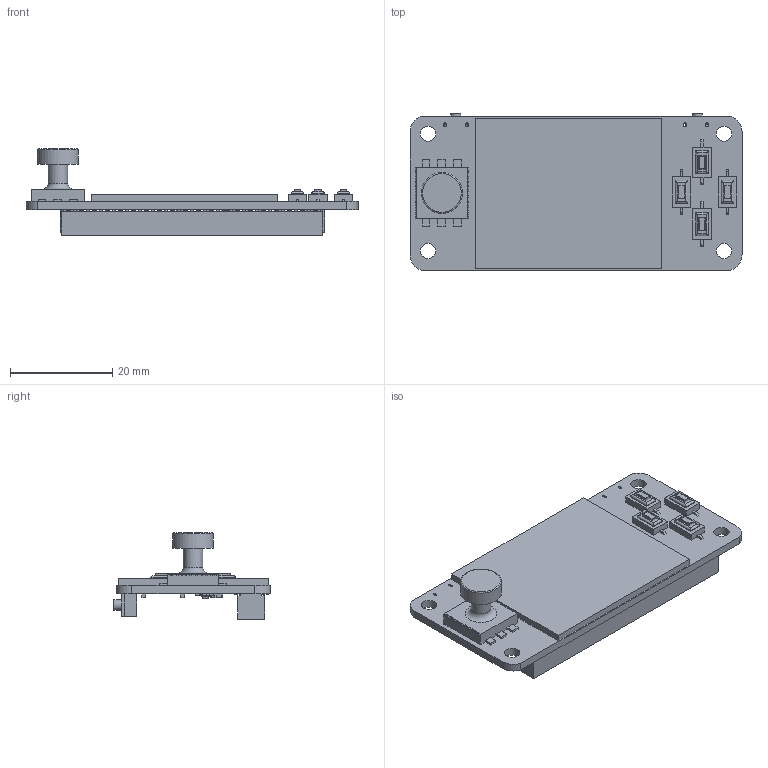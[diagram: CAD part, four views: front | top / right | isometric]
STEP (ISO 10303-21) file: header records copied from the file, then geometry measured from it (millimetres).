
FILE_DESCRIPTION(/* description */ (''),/* implementation_level */ '2;1');
FILE_NAME(/* name */ '1.44inch LCD Display-V1.3.stp',/* time_stamp */ '2025-08-19T09:02:24+08:00',/* author */ (''),/* organization */ (''),/* preprocessor_version */ 'ST-DEVELOPER v16.7',/* originating_system */ 'SIEMENS PLM Software NX 12.0',/* authorisation */ '');
FILE_SCHEMA (('AUTOMOTIVE_DESIGN { 1 0 10303 214 3 1 1 1 }'));
Products named in the file (34): LOGO_17816; R_060312352; C_06034748; LOGO_; Extruded; Female-Header-2_54-SMD-40; SOT23-3; Open CASCADE STEP translator 6.8 5.1.1; 按键; A方形按键; Ayuananjian1; C_0603; C9; C8; C7; C6; C5; C4; C3; C2; P8; R_0603; R3; R2; R1; Q1; C1; C10; C11; C12; 5872944928; J1; Board; 1.44inch LCD Display-V1.3_step
Assembly tree (50 placements, depth 4):
  1.44inch LCD Display-V1.3_step
    Board
      Open CASCADE STEP translator 6.8 5.1.1
    J1
      5872944928
        Extruded
    C12
      C_0603
        LOGO_
        C_06034748
    C11
      C_0603
        LOGO_
        C_06034748
    C10
      C_0603
        LOGO_
        C_06034748
    C1
      C_0603
        LOGO_
        C_06034748
    Q1
      SOT23-3
    R1
      R_0603
        R_060312352
        LOGO_17816
    R2
      R_0603
        R_060312352
        LOGO_17816
    R3
      R_0603
        R_060312352
        LOGO_17816
    P8
      Female-Header-2_54-SMD-40
    C2
      C_0603
        LOGO_
        C_06034748
    C3
      C_0603
        LOGO_
        C_06034748
    C4
      C_0603
        LOGO_
        C_06034748
    C5
      C_0603
        LOGO_
        C_06034748
    C6
      C_0603
        LOGO_
        C_06034748
    C7
      C_0603
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Bounding box: 65.05 x 30.59 x 16.9 mm (x, y, z)
Volume: 6196.5 mm3; surface area: 10574.2 mm2
Topology: 308 solids, 308 shells, 4621 faces, 11182 edges, 7232 vertices
Faces by surface type: plane 2769, bspline 1080, cylinder 674, sphere 96, torus 2
Full cylindrical faces by diameter (mm): 0.9 x2, 2 x2, 3 x4, 3.8 x1, 8 x1
Entity records: 67108 total; most frequent: CARTESIAN_POINT 16488, ORIENTED_EDGE 9316, DIRECTION 8094, EDGE_CURVE 4658, LINE 3934, VECTOR 3934, VERTEX_POINT 3050, AXIS2_PLACEMENT_3D 2080
